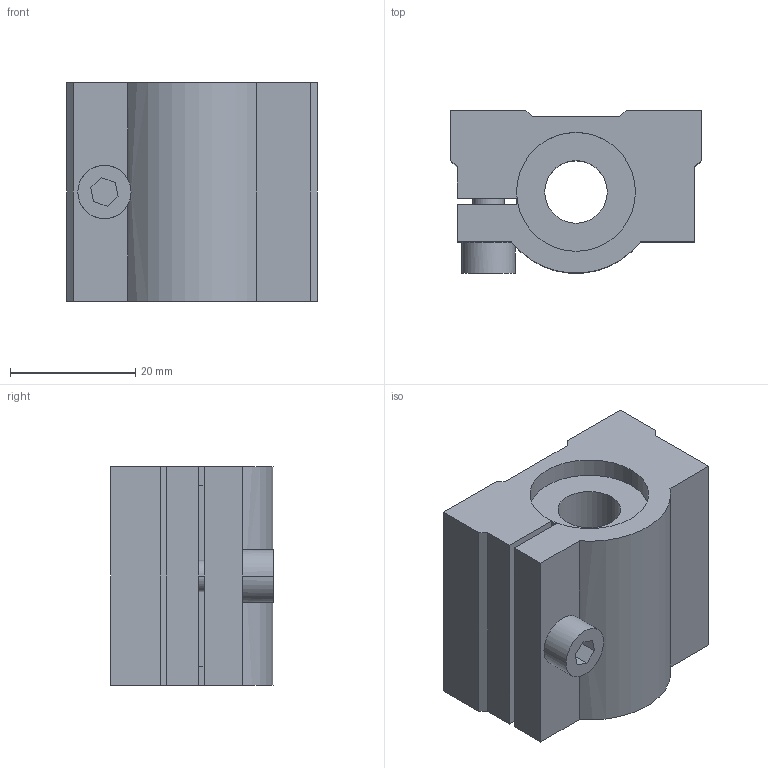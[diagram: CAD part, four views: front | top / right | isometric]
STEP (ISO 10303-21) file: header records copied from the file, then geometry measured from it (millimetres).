
FILE_DESCRIPTION((''),'2;1');
FILE_NAME('C:\Documents and Settings\ｿﾀﾀ蠑ｷ1\ｹﾙﾅﾁ ﾈｭｸ饅\ｺﾎﾇｰﾆﾄﾀﾏ\ﾁｦﾇｰ\SCJ__UU\SCJ10UU.stp','2005-06-22T17:39:18',('ｿﾀﾀ蠑ｷ1'),(''),'Autodesk Inventor 9','Autodesk Inventor 9','');
FILE_SCHEMA(('AUTOMOTIVE_DESIGN { 1 0 10303 214 1 1 1 1 }'));
Length unit declared in the file: millimetre
Products named in the file (1): SCJ__UU
Bounding box: 40 x 26 x 35 mm (x, y, z)
Volume: 25784.9 mm3; surface area: 8649.3 mm2
Topology: 1 solids, 1 shells, 56 faces, 145 edges, 90 vertices
Faces by surface type: plane 29, bspline 16, cylinder 11
Entity records: 1892 total; most frequent: CARTESIAN_POINT 566, ORIENTED_EDGE 274, DIRECTION 255, EDGE_CURVE 137, VECTOR 97, LINE 97, VERTEX_POINT 90, AXIS2_PLACEMENT_3D 79
